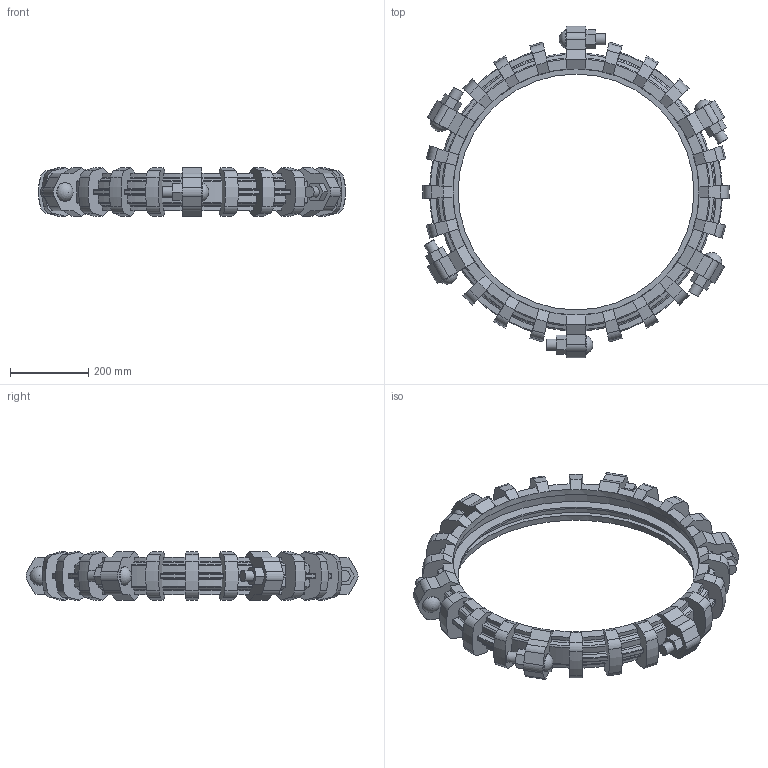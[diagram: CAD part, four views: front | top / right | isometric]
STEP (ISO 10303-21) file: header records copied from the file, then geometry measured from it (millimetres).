
FILE_DESCRIPTION(/* description */ ('VIC COUPLING STYLE 28','CAx-IF Rec.Pracs.---Representation and Presentation of Product Manufacturing Information (PMI)---4.0---2014-10-13'),/* implementation_level */ '2;1');
FILE_NAME(/* name */ 'C:\Users\kkamble\Desktop\KIRAN\2021\style 28\INVENTOR\Victaulic_Vic-Ring_Coupling Flexible_Style 28 (OGR)\Victaulic_Vic-Ring_Coupling Flexible_Style 28 (OGR)_24 (600).stp',/* time_stamp */ '2021-02-09T11:57:32+05:00',/* author */ ('jbrannon'),/* organization */ ('Victaulic'),/* preprocessor_version */ 'ST-DEVELOPER v17.2',/* originating_system */ 'Autodesk Inventor 2019',/* authorisation */ '');
FILE_SCHEMA (('AP242_MANAGED_MODEL_BASED_3D_ENGINEERING_MIM_LF { 1 0 10303 442 1 1 4 }'));
Length unit declared in the file: inch
Products named in the file (1): 28-24.0
Bounding box: 786.26 x 850.9 x 124.46 mm (x, y, z)
Volume: 11309422 mm3; surface area: 1188332.3 mm2
Topology: 1 solids, 7 shells, 717 faces, 2023 edges, 1334 vertices
Faces by surface type: plane 244, torus 198, cylinder 149, cone 120, sphere 6
Full cylindrical faces by diameter (mm): 28.575 x12, 47.625 x6, 604.52 x1, 630.936 x2, 655.32 x2
Entity records: 25112 total; most frequent: CARTESIAN_POINT 4854, DIRECTION 4441, ORIENTED_EDGE 4034, EDGE_CURVE 2017, AXIS2_PLACEMENT_3D 1765, VERTEX_POINT 1334, CIRCLE 1034, LINE 911
